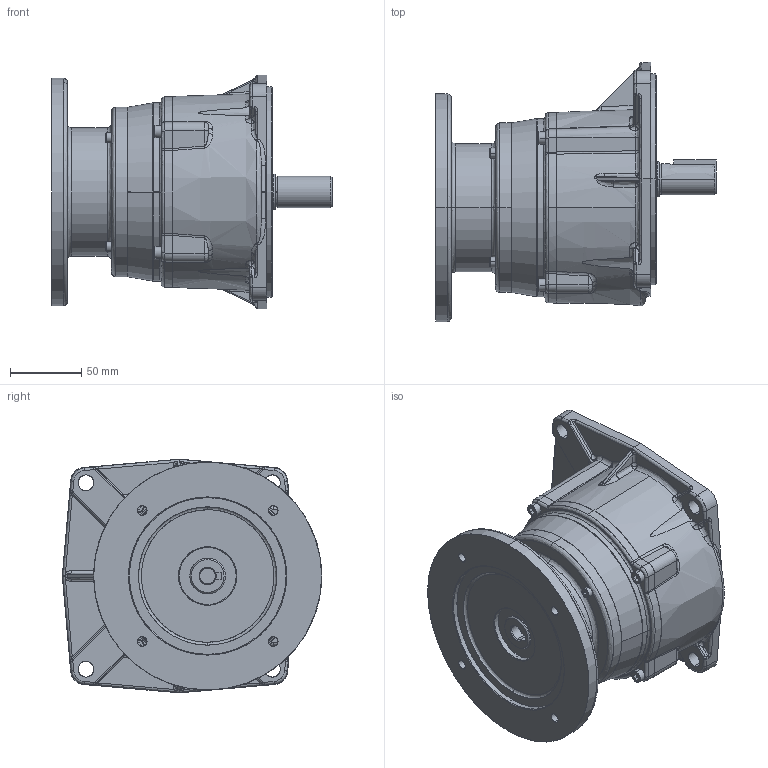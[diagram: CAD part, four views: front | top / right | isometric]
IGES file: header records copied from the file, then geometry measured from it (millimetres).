
Start section: SolidWorks IGES file using analytic representation for surfaces
Bounding box: 197 x 182 x 164 mm (x, y, z)
Surface area: 210715.6 mm2 (no closed solid volume)
Topology: 0 solids, 0 shells, 691 faces, 9256 edges, 9246 vertices
Faces by surface type: bspline 424, revolution 267
